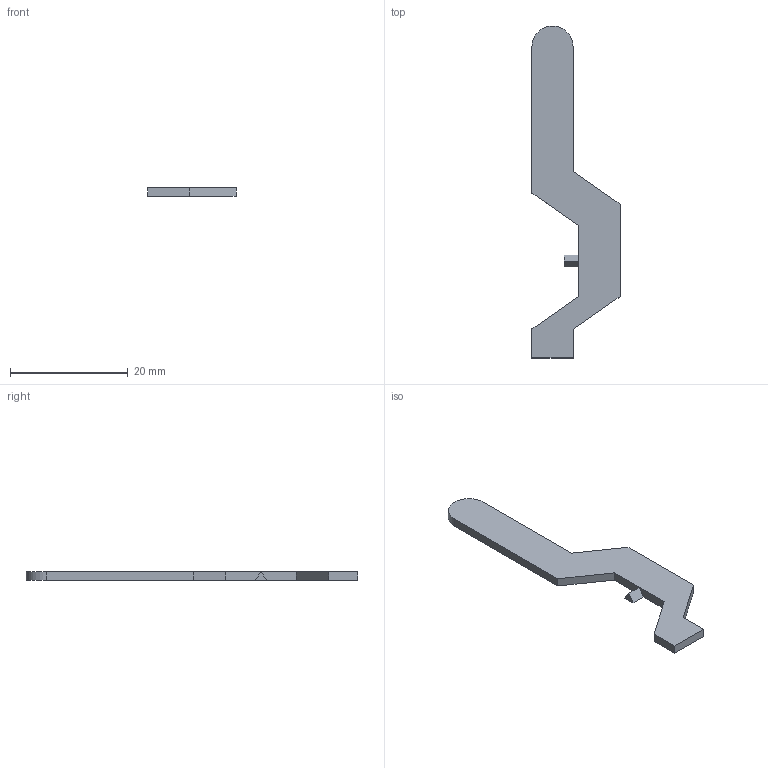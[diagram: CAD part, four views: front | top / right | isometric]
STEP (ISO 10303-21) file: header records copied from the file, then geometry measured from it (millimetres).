
FILE_DESCRIPTION(('STEP AP214'),'1');
FILE_NAME('tmp0.STEP','2026-08-22T14:39:53',(' '),(' '),'Spatial InterOp 3D',' ',' ');
FILE_SCHEMA(('AUTOMOTIVE_DESIGN { 1 0 10303 214 1 1 1 1 }'));
Length unit declared in the file: millimetre
Products named in the file (1): 1
Bounding box: 15 x 56.5 x 1.5 mm (x, y, z)
Volume: 633.4 mm3; surface area: 1064.6 mm2
Topology: 1 solids, 1 shells, 19 faces, 49 edges, 32 vertices
Faces by surface type: plane 17, cylinder 2
Entity records: 596 total; most frequent: CARTESIAN_POINT 101, ORIENTED_EDGE 98, DIRECTION 93, EDGE_CURVE 49, LINE 45, VECTOR 45, VERTEX_POINT 32, AXIS2_PLACEMENT_3D 24
